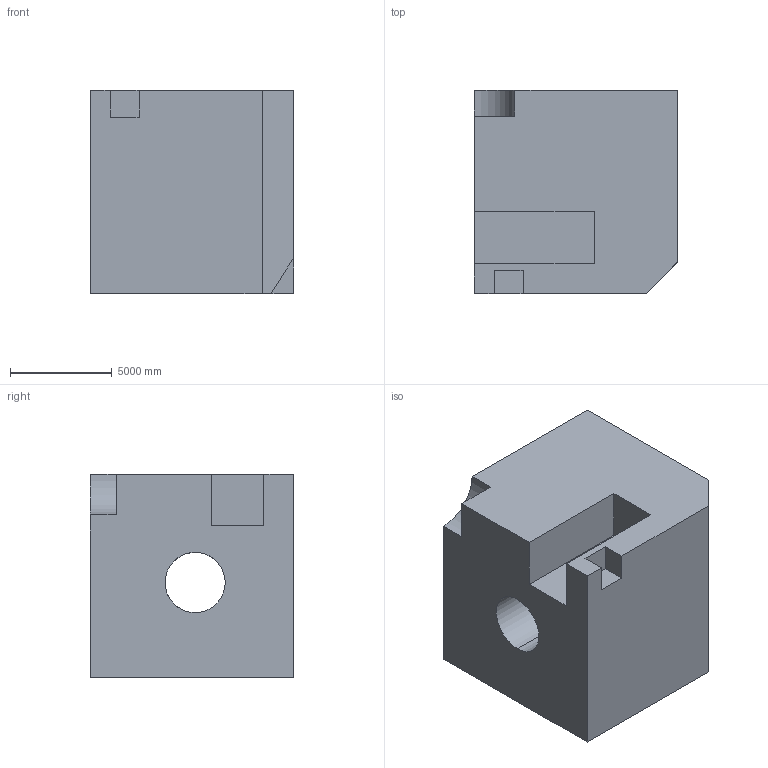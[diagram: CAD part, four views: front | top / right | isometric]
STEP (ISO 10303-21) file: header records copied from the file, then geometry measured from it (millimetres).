
FILE_DESCRIPTION (( 'STEP AP203' ), '1' );
FILE_NAME ('617.STEP', '2022-07-29T12:07:11', ( 'user' ), ( '' ), 'SwSTEP 2.0', 'SolidWorks 2021', '' );
FILE_SCHEMA (( 'CONFIG_CONTROL_DESIGN' ));
Length unit declared in the file: centimetre
Products named in the file (1): 617
Bounding box: 10000 x 10000 x 10000 mm (x, y, z)
Volume: 842696950386.7 mm3; surface area: 698337587 mm2
Topology: 1 solids, 1 shells, 26 faces, 75 edges, 50 vertices
Faces by surface type: plane 20, cylinder 6
Entity records: 1048 total; most frequent: CARTESIAN_POINT 272, ORIENTED_EDGE 150, DIRECTION 139, EDGE_CURVE 75, VECTOR 61, LINE 61, VERTEX_POINT 50, AXIS2_PLACEMENT_3D 39
